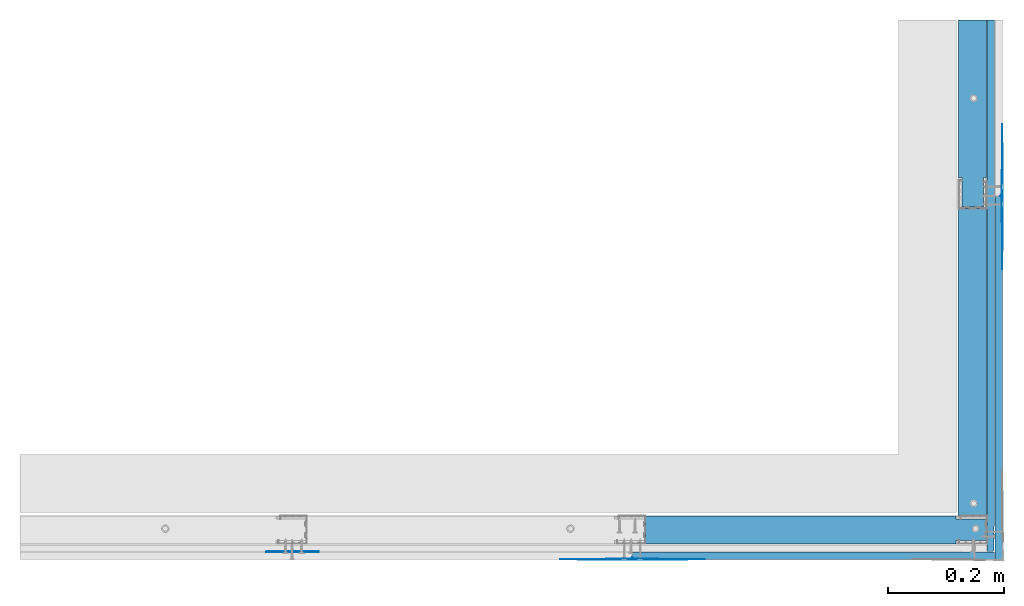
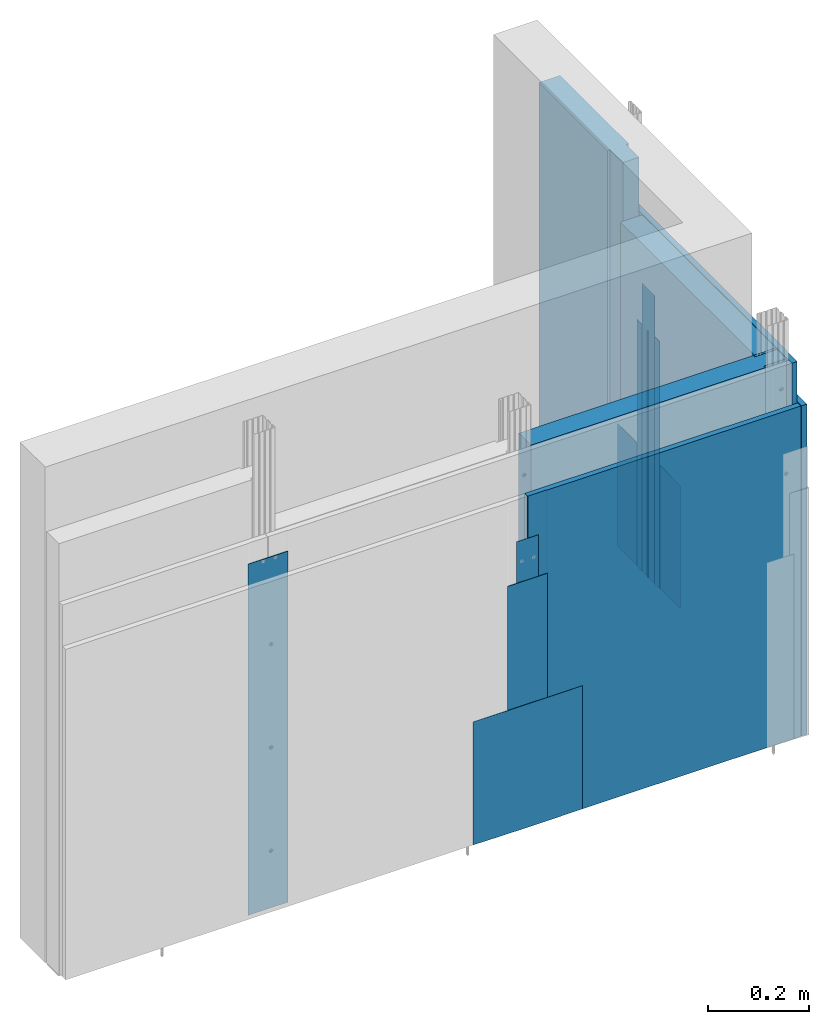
# One storey, part 2 of 43: 13 walls.
"""IFC2X3 building model written with IfcOpenShell, lengths in millimetres."""

import ifcopenshell
import ifcopenshell.guid

model = None  # the IFC model being written
_history = None  # IfcOwnerHistory: only IFC2X3 demands one
_inside = {}  # id of a spatial element -> (the spatial element, [elements in it])
_under = {}  # id of a project, library or spatial element -> (it, [spatial elements below it])
_declared = {}  # id of a project -> (the project, [libraries it declares])
_typed = {}  # id of a type object -> (the type object, [elements of that type])
_made_of = {}  # id of a material, layer set ... -> (it, [elements and type objects made of it])


def new_model(schema):
    """Start an empty IFC model of exactly this schema.

    Asked for "IFC4X3", IfcOpenShell would pick the latest addendum, in which some entities
    have other attributes; the version numbers below select the first issue.
    IFC2X3 requires an IfcOwnerHistory on every rooted entity: one is made here for all.
    """
    global model, _history
    if schema == "IFC4X3":
        model = ifcopenshell.file(schema_version=(4, 3, 0, 0))
    else:
        model = ifcopenshell.file(schema=schema)
    _inside.clear()
    _under.clear()
    _declared.clear()
    _typed.clear()
    _made_of.clear()
    _history = None
    if model.schema == "IFC2X3":
        org = make("IfcOrganization", Name="unknown")
        user = make(
            "IfcPersonAndOrganization",
            ThePerson=make("IfcPerson", FamilyName="unknown"),
            TheOrganization=org,
        )
        app = make(
            "IfcApplication",
            ApplicationDeveloper=org,
            Version="unknown",
            ApplicationFullName="unknown",
            ApplicationIdentifier="unknown",
        )
        _history = make(
            "IfcOwnerHistory",
            OwningUser=user,
            OwningApplication=app,
            ChangeAction="ADDED",
            CreationDate=0,
        )
    return model


def make(cls, **values):
    """One entity of the class cls with the attributes given. An attribute that is None is left unset."""
    return model.create_entity(
        cls, **{name: value for name, value in values.items() if value is not None}
    )


def entity(cls, *values):
    """Any entity or typed value of the class cls, its attributes in the order of the schema. None: left unset."""
    e = model.create_entity(cls)
    for i, value in enumerate(values):
        if value is not None:
            e[i] = value
    return e


def rooted(cls, **values):
    """An entity with a GlobalId (a new one), such as an element, a storey or a relation."""
    return make(cls, GlobalId=ifcopenshell.guid.new(), OwnerHistory=_history, **values)


def si_unit(unit_type, name, prefix=None):
    """IfcSIUnit, for example si_unit("LENGTHUNIT", "METRE", prefix="MILLI")."""
    return make("IfcSIUnit", UnitType=unit_type, Prefix=prefix, Name=name)


def converted_unit(unit_type, name, factor, base, dimensions=None, offset=None):
    """IfcConversionBasedUnit, such as the inch: factor (a typed value) times the base unit."""
    return make(
        "IfcConversionBasedUnit"
        if offset is None
        else "IfcConversionBasedUnitWithOffset",
        ConversionOffset=offset,
        Dimensions=None
        if dimensions is None
        else entity("IfcDimensionalExponents", *dimensions),
        UnitType=unit_type,
        Name=name,
        ConversionFactor=make(
            "IfcMeasureWithUnit", ValueComponent=factor, UnitComponent=base
        ),
    )


def assignment(units):
    """IfcUnitAssignment: the units of a project."""
    return None if units is None else make("IfcUnitAssignment", Units=units)


def point(xyz):
    """IfcCartesianPoint."""
    return None if xyz is None else make("IfcCartesianPoint", Coordinates=xyz)


def direction(xyz):
    """IfcDirection."""
    return None if xyz is None else make("IfcDirection", DirectionRatios=xyz)


def frame(location, z_axis=None, x_axis=None):
    """IfcAxis2Placement3D, a coordinate frame: its origin and axes. An axis left out is left unset."""
    return make(
        "IfcAxis2Placement3D",
        Location=point(location),
        Axis=direction(z_axis),
        RefDirection=direction(x_axis),
    )


def origin():
    """The frame at (0, 0, 0) with its axes left unset."""
    return frame((0.0, 0.0, 0.0))


def origin_with_axes():
    """The frame at (0, 0, 0) with the z axis (0, 0, 1) and the x axis (1, 0, 0) written out."""
    return frame((0.0, 0.0, 0.0), z_axis=(0.0, 0.0, 1.0), x_axis=(1.0, 0.0, 0.0))


def place(relative_to, where):
    """IfcLocalPlacement: puts the frame where relative to a parent placement (None: the world)."""
    return make(
        "IfcLocalPlacement", PlacementRelTo=relative_to, RelativePlacement=where
    )


def context(
    kind, dimensions, precision=None, world=None, true_north=None, identifier=None
):
    """IfcGeometricRepresentationContext, for example the 3D "Model" context."""
    return make(
        "IfcGeometricRepresentationContext",
        ContextIdentifier=identifier,
        ContextType=kind,
        CoordinateSpaceDimension=dimensions,
        Precision=precision,
        WorldCoordinateSystem=world,
        TrueNorth=true_north,
    )


def project(units=None, contexts=None):
    """IfcProject with its units and contexts."""
    return rooted(
        "IfcProject",
        Name="project",
        RepresentationContexts=contexts,
        UnitsInContext=assignment(units),
    )


def spatial(cls, under=None, at=None, **own):
    """A site, building, storey or space (cls), placed at a placement, below another one or the project."""
    s = rooted(cls, ObjectPlacement=at, **own)
    if under is not None:
        _under.setdefault(under.id(), (under, []))[1].append(s)
    return s


def faces_of(points, faces, orient=None, outer=None):
    """IfcFace entities. A face is a list of loops; a loop is a list of indices into points, from 0.

    orient and outer hold one flag for each loop. By default every Orientation is true, the
    first loop of a face is its IfcFaceOuterBound and the others are IfcFaceBound.
    """
    made = []
    for i, loops in enumerate(faces):
        bounds = []
        for j, loop in enumerate(loops):
            is_outer = j == 0 if outer is None else outer[i][j]
            bounds.append(
                make(
                    "IfcFaceOuterBound" if is_outer else "IfcFaceBound",
                    Bound=make("IfcPolyLoop", Polygon=[points[k] for k in loop]),
                    Orientation=True if orient is None else orient[i][j],
                )
            )
        made.append(make("IfcFace", Bounds=bounds))
    return made


def faceted_brep(points, faces, orient=None, outer=None, voids=None):
    """IfcFacetedBrep: a solid bounded by flat faces; with voids (closed shells), ...WithVoids."""
    shared = [point(p) for p in points]
    hull = make("IfcClosedShell", CfsFaces=faces_of(shared, faces, orient, outer))
    if voids is None:
        return make("IfcFacetedBrep", Outer=hull)
    return make(
        "IfcFacetedBrepWithVoids",
        Outer=hull,
        Voids=[
            make(cls, CfsFaces=faces_of(shared, fs, o, b)) for cls, fs, o, b in voids
        ],
    )


def shape(context_of_items, identifier, shape_type, items):
    """IfcShapeRepresentation: the items that make up one representation, for example the "Body"."""
    return make(
        "IfcShapeRepresentation",
        ContextOfItems=context_of_items,
        RepresentationIdentifier=identifier,
        RepresentationType=shape_type,
        Items=items,
    )


def made_of(thing, what):
    """Note that an element or type object is made of a material, layer set ...; save() writes the relation."""
    if what is not None:
        _made_of.setdefault(what.id(), (what, []))[1].append(thing)
    return thing


def element(
    cls,
    number,
    at=None,
    inside=None,
    cuts=None,
    type_object=None,
    material=None,
    context=None,
    identifier="Body",
    shape_type=None,
    held_by="IfcProductDefinitionShape",
    body=None,
    shapes=None,
    **own,
):
    """One element of the class cls, such as IfcWall. Its Tag is "e" and its number.

    at: its placement. inside: the storey or other place that contains it. cuts: it is an
    opening in that element (IfcRelVoidsElement). A single representation is given by context,
    identifier, shape_type and body (its items); several are given by shapes. held_by: the class
    of the entity that holds the representations. save() writes the other relations.
    """
    e = rooted(cls, Tag="e%d" % number, ObjectPlacement=at, **own)
    if body is not None:
        shapes = [shape(context, identifier, shape_type, body)]
    if shapes is not None:
        e.Representation = make(held_by, Representations=shapes)
    if inside is not None:
        _inside.setdefault(inside.id(), (inside, []))[1].append(e)
    if cuts is not None:
        rooted(
            "IfcRelVoidsElement", RelatingBuildingElement=cuts, RelatedOpeningElement=e
        )
    if type_object is not None:
        _typed.setdefault(type_object.id(), (type_object, []))[1].append(e)
    return made_of(e, material)


def aggregate(whole, parts):
    """IfcRelAggregates: a whole, such as a stair, and the parts it consists of."""
    return rooted("IfcRelAggregates", RelatingObject=whole, RelatedObjects=parts)


def save(model, path):
    """Write the relations noted so far, then the file.

    IfcRelAggregates (storeys below a building ...), IfcRelContainedInSpatialStructure (elements
    in a storey), IfcRelDefinesByType, IfcRelAssociatesMaterial and IfcRelDeclares: one each for
    every whole, place, type object, material and project.
    """
    for whole, parts in _under.values():
        aggregate(whole, parts)
    for where, things in _inside.values():
        rooted(
            "IfcRelContainedInSpatialStructure",
            RelatedElements=things,
            RelatingStructure=where,
        )
    for kind, things in _typed.values():
        rooted("IfcRelDefinesByType", RelatedObjects=things, RelatingType=kind)
    for what, things in _made_of.values():
        rooted("IfcRelAssociatesMaterial", RelatedObjects=things, RelatingMaterial=what)
    for by, libraries in _declared.values():
        rooted("IfcRelDeclares", RelatingContext=by, RelatedDefinitions=libraries)
    model.write(path)


model = new_model("IFC2X3")

# Units and contexts
model_context = context("Model", 3, precision=1e-05, world=origin(), true_north=direction((0.0, 1.0, 0.0)))
ifc_project = project(units=[si_unit("LENGTHUNIT", "METRE", prefix="MILLI"), si_unit("AREAUNIT", "SQUARE_METRE"), si_unit("VOLUMEUNIT", "CUBIC_METRE"), converted_unit("PLANEANGLEUNIT", "DEGREE", entity("IfcPlaneAngleMeasure", 0.01745), si_unit("PLANEANGLEUNIT", "RADIAN"), dimensions=[0, 0, 0, 0, 0, 0, 0]), si_unit("SOLIDANGLEUNIT", "STERADIAN"), si_unit("MASSUNIT", "GRAM"), si_unit("TIMEUNIT", "SECOND"), si_unit("THERMODYNAMICTEMPERATUREUNIT", "DEGREE_CELSIUS"), si_unit("LUMINOUSINTENSITYUNIT", "LUMEN")], contexts=[model_context])

# Site, building, storey
site_placement = place(None, origin_with_axes())
site = spatial("IfcSite", under=ifc_project, at=site_placement, Name="Default Site", CompositionType="ELEMENT")
building_placement = place(site_placement, origin_with_axes())
building = spatial("IfcBuilding", under=site, at=building_placement, Name="Default Building", CompositionType="ELEMENT")
storey_placement = place(building_placement, origin_with_axes())
storey = spatial("IfcBuildingStorey", under=building, at=storey_placement, Name="Default Building Storey", CompositionType="ELEMENT", Elevation=0.0)

# Walls
wall_1_placement = place(storey_placement, frame((2445.759195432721, 5331.736799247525, 7.5484213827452), z_axis=(0.0, 0.0, 1.0), x_axis=(-1.0, 4.718447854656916e-16, 0.0)))
element("IfcWall", 1, at=wall_1_placement, inside=storey, Name="Dedykowana masa szpachlowa Rigips - konstrukcyjna", context=model_context, shape_type="Brep", body=[
    faceted_brep([(-737.4838396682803, 3387.6695906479, 600.7999999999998), (-737.4592163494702, 3387.356721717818, 600.7999999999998), (-737.434593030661, 3387.6695906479, 600.7999999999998), (-737.3613293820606, 3387.974755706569, 600.7999999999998), (-737.2412293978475, 3388.264702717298, 600.7999999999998), (-737.07725033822, 3388.532292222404, 600.7999999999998), (-736.8734299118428, 3388.770935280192, 600.7999999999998), (-736.6347868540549, 3388.974755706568, 600.7999999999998), (-736.3671973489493, 3389.138734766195, 600.7999999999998), (-736.0772503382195, 3389.258834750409, 600.7999999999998), (-735.7720852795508, 3389.332098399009, 600.7999999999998), (-735.45921634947, 3389.356721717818, 600.7999999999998), (-692.4592163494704, 3389.356721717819, 600.7999999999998), (-691.4592163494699, 3390.556721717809, 600.7999999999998), (-782.4592163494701, 3390.556721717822, 600.7999999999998), (-782.4592163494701, 3389.356721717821, 600.7999999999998), (-739.4592163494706, 3389.356721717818, 600.7999999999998), (-739.1463474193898, 3389.332098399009, 600.7999999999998), (-738.8411823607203, 3389.258834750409, 600.7999999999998), (-738.5512353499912, 3389.138734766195, 600.7999999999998), (-738.2836458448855, 3388.974755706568, 600.7999999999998), (-738.0450027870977, 3388.770935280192, 600.7999999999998), (-737.8411823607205, 3388.532292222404, 600.7999999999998), (-737.6772033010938, 3388.264702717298, 600.7999999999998), (-737.55710331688, 3387.974755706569, 600.7999999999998), (-691.4592163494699, 3390.556721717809, 2.449996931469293), (-692.4592163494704, 3389.356721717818, 2.449996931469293), (-735.45921634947, 3389.356721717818, 2.449996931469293), (-735.7720852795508, 3389.332098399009, 2.449996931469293), (-736.0772503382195, 3389.258834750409, 2.449996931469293), (-736.3671973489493, 3389.138734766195, 2.449996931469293), (-736.6347868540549, 3388.974755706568, 2.449996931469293), (-736.8734299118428, 3388.770935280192, 2.449996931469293), (-737.07725033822, 3388.532292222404, 2.449996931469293), (-737.2412293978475, 3388.264702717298, 2.449996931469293), (-737.3613293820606, 3387.974755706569, 2.449996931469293), (-737.434593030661, 3387.6695906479, 2.449996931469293), (-737.4592163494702, 3387.356721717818, 2.449996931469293), (-737.4838396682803, 3387.6695906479, 2.449996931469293), (-737.55710331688, 3387.974755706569, 2.449996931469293), (-737.6772033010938, 3388.264702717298, 2.449996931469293), (-737.8411823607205, 3388.532292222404, 2.449996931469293), (-738.0450027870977, 3388.770935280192, 2.449996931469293), (-738.2836458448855, 3388.974755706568, 2.449996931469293), (-738.5512353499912, 3389.138734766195, 2.449996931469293), (-738.8411823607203, 3389.258834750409, 2.449996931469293), (-739.1463474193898, 3389.332098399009, 2.449996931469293), (-739.4592163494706, 3389.356721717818, 2.449996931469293), (-782.4592163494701, 3389.356721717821, 2.449996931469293), (-782.4592163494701, 3390.556721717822, 2.449996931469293)], [[[0, 1, 2, 3, 4, 5, 6, 7, 8, 9, 10, 11, 12, 13, 14, 15, 16, 17, 18, 19, 20, 21, 22, 23, 24]], [[25, 26, 27, 28, 29, 30, 31, 32, 33, 34, 35, 36, 37, 38, 39, 40, 41, 42, 43, 44, 45, 46, 47, 48, 49]], [[26, 12, 11, 27]], [[10, 9, 29, 28]], [[28, 27, 11, 10]], [[8, 30, 29, 9]], [[7, 6, 32, 31]], [[31, 30, 8, 7]], [[5, 4, 34, 33]], [[33, 32, 6, 5]], [[3, 35, 34, 4]], [[2, 1, 37, 36]], [[36, 35, 3, 2]], [[0, 24, 39, 38]], [[38, 37, 1, 0]], [[23, 40, 39, 24]], [[22, 21, 42, 41]], [[41, 40, 23, 22]], [[20, 19, 44, 43]], [[43, 42, 21, 20]], [[18, 45, 44, 19]], [[17, 16, 47, 46]], [[46, 45, 18, 17]], [[47, 16, 15, 48]], [[48, 15, 14, 49]], [[49, 14, 13, 25]], [[25, 13, 12, 26]]]),
])
wall_2_placement = place(storey_placement, frame((2445.759195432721, 5331.736799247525, 7.548421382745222), z_axis=(0.0, 0.0, 1.0), x_axis=(-1.0, 4.718447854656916e-16, 0.0)))
element("IfcWall", 2, at=wall_2_placement, inside=storey, Name="Dedykowana masa szpachlowa Rigips - wykończeniowa", context=model_context, shape_type="Brep", body=[
    faceted_brep([(-612.459216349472, 3390.556721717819, 2.449996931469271), (-862.459216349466, 3390.556721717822, 2.449996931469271), (-812.4612643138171, 3391.196716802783, 2.449996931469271), (-762.4602403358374, 3391.516720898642, 2.449996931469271), (-712.458192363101, 3391.516720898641, 2.449996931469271), (-662.4571683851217, 3391.19671680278, 2.449996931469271), (-762.4602403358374, 3391.516720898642, 300.8000000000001), (-812.4612643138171, 3391.196716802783, 300.8000000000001), (-862.459216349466, 3390.556721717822, 300.8000000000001), (-612.459216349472, 3390.556721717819, 300.8000000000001), (-662.4571683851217, 3391.19671680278, 300.8000000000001), (-712.458192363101, 3391.516720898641, 300.8000000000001)], [[[0, 1, 2, 3, 4, 5]], [[6, 7, 8, 9, 10, 11]], [[9, 0, 5, 10]], [[10, 5, 4, 11]], [[11, 4, 3, 6]], [[6, 3, 2, 7]], [[1, 8, 7, 2]], [[0, 9, 8, 1]]]),
])
wall_3_placement = place(storey_placement, frame((2445.759195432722, 5331.736799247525, 7.548421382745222), z_axis=(0.0, 0.0, 1.0), x_axis=(-1.0, 4.718447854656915e-16, 0.0)))
element("IfcWall", 3, at=wall_3_placement, inside=storey, Name="Taśma spoinowa RIGIPS", context=model_context, shape_type="Brep", body=[
    faceted_brep([(-712.4592163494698, 3389.356721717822, 700.7999999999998), (-712.4592163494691, 3389.856721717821, 700.7999999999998), (-762.4592163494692, 3389.856721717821, 700.7999999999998), (-762.45921634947, 3389.35672171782, 700.7999999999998), (-712.4592163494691, 3389.856721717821, 2.449996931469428), (-712.4592163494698, 3389.35672171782, 2.449996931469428), (-762.45921634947, 3389.35672171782, 2.449996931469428), (-762.4592163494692, 3389.856721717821, 2.449996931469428)], [[[0, 1, 2, 3]], [[4, 5, 6, 7]], [[5, 0, 3, 6]], [[6, 3, 2, 7]], [[7, 2, 1, 4]], [[4, 1, 0, 5]]]),
])
wall_4_placement = place(storey_placement, frame((1858.835917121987, 5344.236799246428, 259.1999999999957), z_axis=(0.0, 0.0, 1.0), x_axis=(-1.0, 4.718447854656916e-16, 0.0)))
element("IfcWall", 4, at=wall_4_placement, inside=storey, Name="Dedykowana masa szpachlowa Rigips - konstrukcyjna", context=model_context, shape_type="Brep", body=[
    faceted_brep([(-737.4838396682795, 3387.669590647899, 600.7999999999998), (-737.4592163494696, 3387.356721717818, 600.7999999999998), (-737.4345930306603, 3387.669590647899, 600.7999999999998), (-737.3613293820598, 3387.974755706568, 600.7999999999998), (-737.2412293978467, 3388.264702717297, 600.7999999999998), (-737.0772503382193, 3388.532292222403, 600.7999999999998), (-736.8734299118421, 3388.770935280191, 600.7999999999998), (-736.6347868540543, 3388.974755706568, 600.7999999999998), (-736.3671973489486, 3389.138734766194, 600.7999999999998), (-736.0772503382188, 3389.258834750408, 600.7999999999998), (-735.7720852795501, 3389.332098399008, 600.7999999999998), (-735.4592163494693, 3389.356721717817, 600.7999999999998), (-692.4592163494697, 3389.356721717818, 600.7999999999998), (-691.4592163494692, 3390.556721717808, 600.7999999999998), (-782.4592163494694, 3390.556721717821, 600.7999999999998), (-782.4592163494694, 3389.356721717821, 600.7999999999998), (-739.4592163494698, 3389.356721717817, 600.7999999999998), (-739.146347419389, 3389.332098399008, 600.7999999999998), (-738.8411823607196, 3389.258834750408, 600.7999999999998), (-738.5512353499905, 3389.138734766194, 600.7999999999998), (-738.2836458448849, 3388.974755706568, 600.7999999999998), (-738.045002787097, 3388.770935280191, 600.7999999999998), (-737.8411823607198, 3388.532292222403, 600.7999999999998), (-737.6772033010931, 3388.264702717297, 600.7999999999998), (-737.5571033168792, 3387.974755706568, 600.7999999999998), (-691.4592163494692, 3390.556721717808, -249.2015816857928), (-692.4592163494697, 3389.356721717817, -249.2015816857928), (-735.4592163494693, 3389.356721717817, -249.2015816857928), (-735.7720852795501, 3389.332098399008, -249.2015816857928), (-736.0772503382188, 3389.258834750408, -249.2015816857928), (-736.3671973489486, 3389.138734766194, -249.2015816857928), (-736.6347868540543, 3388.974755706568, -249.2015816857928), (-736.8734299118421, 3388.77093528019, -249.2015816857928), (-737.0772503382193, 3388.532292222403, -249.2015816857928), (-737.2412293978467, 3388.264702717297, -249.2015816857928), (-737.3613293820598, 3387.974755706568, -249.2015816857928), (-737.4345930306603, 3387.669590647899, -249.2015816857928), (-737.4592163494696, 3387.356721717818, -249.2015816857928), (-737.4838396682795, 3387.669590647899, -249.2015816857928), (-737.5571033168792, 3387.974755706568, -249.2015816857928), (-737.6772033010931, 3388.264702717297, -249.2015816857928), (-737.8411823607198, 3388.532292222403, -249.2015816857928), (-738.045002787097, 3388.77093528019, -249.2015816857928), (-738.2836458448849, 3388.974755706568, -249.2015816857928), (-738.5512353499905, 3389.138734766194, -249.2015816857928), (-738.8411823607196, 3389.258834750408, -249.2015816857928), (-739.146347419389, 3389.332098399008, -249.2015816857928), (-739.4592163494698, 3389.356721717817, -249.2015816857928), (-782.4592163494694, 3389.356721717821, -249.2015816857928), (-782.4592163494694, 3390.556721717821, -249.2015816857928)], [[[0, 1, 2, 3, 4, 5, 6, 7, 8, 9, 10, 11, 12, 13, 14, 15, 16, 17, 18, 19, 20, 21, 22, 23, 24]], [[25, 26, 27, 28, 29, 30, 31, 32, 33, 34, 35, 36, 37, 38, 39, 40, 41, 42, 43, 44, 45, 46, 47, 48, 49]], [[26, 12, 11, 27]], [[10, 9, 29, 28]], [[28, 27, 11, 10]], [[8, 30, 29, 9]], [[7, 6, 32, 31]], [[31, 30, 8, 7]], [[5, 4, 34, 33]], [[33, 32, 6, 5]], [[3, 35, 34, 4]], [[2, 1, 37, 36]], [[36, 35, 3, 2]], [[0, 24, 39, 38]], [[38, 37, 1, 0]], [[23, 40, 39, 24]], [[22, 21, 42, 41]], [[41, 40, 23, 22]], [[20, 19, 44, 43]], [[43, 42, 21, 20]], [[18, 45, 44, 19]], [[17, 16, 47, 46]], [[46, 45, 18, 17]], [[47, 16, 15, 48]], [[48, 15, 14, 49]], [[49, 14, 13, 25]], [[25, 13, 12, 26]]]),
])
wall_5_placement = place(storey_placement, frame((3796.29513347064, 3154.680077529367, 1159.999999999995), z_axis=(0.0, 0.0, 1.0), x_axis=(6.387668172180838e-13, -1.0, 0.0)))
element("IfcWall", 5, at=wall_5_placement, inside=storey, Name="Płyta gipsowo-kartonowa RIGIPS PRO (4PRO™)", context=model_context, shape_type="Brep", body=[
    faceted_brep([(281.6635732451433, -2.880426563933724e-10, -249.9999999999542), (281.6635732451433, 12.49999999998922, -249.9999999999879), (281.6635732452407, 12.49999999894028, -1150.001581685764), (281.6635732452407, -1.336979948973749e-09, -1150.001581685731), (1155.000000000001, 12.49999999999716, -249.9999999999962), (1200.0, 2.165734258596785e-12, -249.9999999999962), (1200.00000000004, 10.4999999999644, -249.9999999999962), (1199.965925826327, 10.75881904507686, -249.9999999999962), (1199.866025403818, 10.99999999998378, -249.9999999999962), (1199.707106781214, 11.20710678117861, -249.9999999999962), (1199.50000000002, 11.3660254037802, -249.9999999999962), (1199.258819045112, 11.46592582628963, -249.9999999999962), (1199.0, 11.50000000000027, -249.9999999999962), (1159.0, 11.50000000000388, -249.9999999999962), (1199.965925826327, 10.75881904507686, -1150.001581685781), (1199.866025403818, 10.99999999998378, -1150.001581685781), (1199.707106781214, 11.20710678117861, -1150.001581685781), (1199.50000000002, 11.3660254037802, -1150.001581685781), (1199.258819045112, 11.46592582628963, -1150.001581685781), (1199.0, 11.50000000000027, -1150.001581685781), (1159.0, 11.50000000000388, -1150.001581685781), (1155.000000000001, 12.49999999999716, -1150.001581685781), (1200.0, 2.165734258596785e-12, -1150.001581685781), (1200.00000000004, 10.4999999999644, -1150.001581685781)], [[[0, 1, 2, 3]], [[4, 1, 0, 5, 6, 7, 8, 9, 10, 11, 12, 13]], [[8, 7, 14, 15]], [[9, 8, 15, 16]], [[10, 9, 16, 17]], [[11, 10, 17, 18]], [[12, 11, 18, 19]], [[13, 12, 19, 20]], [[4, 13, 20, 21]], [[21, 2, 1, 4]], [[0, 3, 22, 5]], [[6, 5, 22, 23]], [[7, 6, 23, 14]], [[14, 23, 22, 3, 2, 21, 20, 19, 18, 17, 16, 15]]]),
])
wall_6_placement = place(storey_placement, frame((3632.692039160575, 5447.424146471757, 8.248997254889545), z_axis=(-7.620176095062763e-14, -6.858158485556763e-13, 1.0), x_axis=(-1.0, -9.714451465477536e-17, -7.620176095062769e-14)))
element("IfcWall", 6, at=wall_6_placement, inside=storey, Name="Wełna mineralna szklana lub skalna", context=model_context, shape_type="Brep", body=[
    faceted_brep([(-161.2775660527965, 3473.633223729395, -2.649999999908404), (-161.2775660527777, 3473.633223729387, 901.7510027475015), (-109.9235473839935, 3473.633223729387, 901.7510027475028), (-109.9235473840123, 3473.633223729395, -2.649999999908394), (-109.9235473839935, 3479.633223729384, 901.7510027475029), (-109.9235473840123, 3479.633223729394, -2.649999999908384), (-161.2775660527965, 3436.833223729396, -2.64999999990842), (-161.2775660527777, 3436.833223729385, 901.751002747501), (-109.9235473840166, 3436.833223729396, -2.64999999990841), (-109.9235473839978, 3436.833223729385, 901.7510027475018), (-109.9235473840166, 3431.283223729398, -2.649999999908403), (426.9366232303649, 3431.283223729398, -2.649999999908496), (426.9366232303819, 3431.283223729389, 901.7510027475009), (-109.9235473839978, 3431.283223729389, 901.7510027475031), (426.9366232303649, 3479.633223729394, -2.649999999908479), (426.9366232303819, 3479.633223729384, 901.7510027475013)], [[[0, 1, 2, 3]], [[3, 2, 4, 5]], [[1, 0, 6, 7]], [[7, 6, 8, 9]], [[10, 11, 12, 13]], [[9, 8, 10, 13]], [[3, 5, 14, 11, 10, 8, 6, 0]], [[4, 15, 14, 5]], [[15, 4, 2, 1, 7, 9, 13, 12]], [[14, 15, 12, 11]]]),
])
wall_7_placement = place(storey_placement, frame((7226.673841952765, 3377.868488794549, 8.248997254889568), z_axis=(-6.858158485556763e-13, 7.62017609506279e-14, 1.0), x_axis=(2.857123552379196e-16, 1.0, -7.620176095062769e-14)))
element("IfcWall", 7, at=wall_7_placement, inside=storey, Name="Wełna mineralna szklana lub skalna", context=model_context, shape_type="Brep", body=[
    faceted_brep([(-830.6390912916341, 3431.378708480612, 901.7510027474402), (-830.6390912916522, 3431.378708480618, -2.199999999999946), (-830.6390912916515, 3481.283223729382, -2.199999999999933), (-830.6390912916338, 3481.283223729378, 901.751002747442), (-1361.277566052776, 3431.378708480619, 901.7510027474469), (-1361.277566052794, 3431.378708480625, -2.199999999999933), (-1361.277566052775, 3481.283223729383, 901.7510027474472), (-1309.92354738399, 3481.283223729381, 901.7510027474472), (-1361.277566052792, 3481.28322372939, -2.199999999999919), (-1309.923547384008, 3481.28322372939, -2.199999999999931)], [[[0, 1, 2, 3]], [[1, 0, 4, 5]], [[6, 4, 0, 3, 7]], [[6, 8, 5, 4]], [[8, 6, 7, 9]], [[3, 2, 9, 7]], [[8, 9, 2, 1, 5]]]),
])
wall_8_placement = place(storey_placement, frame((431.7384117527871, 3305.216015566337, 7.548421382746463), z_axis=(0.0, 0.0, 1.0), x_axis=(-6.390998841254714e-13, 1.0, 0.0)))
element("IfcWall", 8, at=wall_8_placement, inside=storey, Name="Dedykowana masa szpachlowa Rigips - wykończeniowa", context=model_context, shape_type="Brep", body=[
    faceted_brep([(-612.459216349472, -3390.556721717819, 2.449996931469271), (-862.459216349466, -3390.556721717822, 2.449996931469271), (-812.4612643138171, -3391.196716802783, 2.449996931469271), (-762.4602403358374, -3391.516720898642, 2.449996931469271), (-712.458192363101, -3391.516720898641, 2.449996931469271), (-662.4571683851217, -3391.19671680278, 2.449996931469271), (-762.4602403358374, -3391.516720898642, 300.8000000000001), (-812.4612643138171, -3391.196716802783, 300.8000000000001), (-862.459216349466, -3390.556721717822, 300.8000000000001), (-612.459216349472, -3390.556721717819, 300.8000000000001), (-662.4571683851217, -3391.19671680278, 300.8000000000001), (-712.458192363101, -3391.516720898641, 300.8000000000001)], [[[0, 1, 2, 3, 4, 5]], [[6, 7, 8, 9, 10, 11]], [[9, 0, 5, 10]], [[10, 5, 4, 11]], [[11, 4, 3, 6]], [[6, 3, 2, 7]], [[1, 8, 7, 2]], [[0, 9, 8, 1]]]),
])
wall_9_placement = place(storey_placement, frame((431.7384117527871, 3305.216015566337, 7.548421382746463), z_axis=(0.0, 0.0, 1.0), x_axis=(-6.390998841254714e-13, 1.0, 0.0)))
element("IfcWall", 9, at=wall_9_placement, inside=storey, Name="Taśma spoinowa RIGIPS", context=model_context, shape_type="Brep", body=[
    faceted_brep([(-712.4592163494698, -3389.356721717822, 700.7999999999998), (-712.4592163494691, -3389.856721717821, 700.7999999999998), (-762.4592163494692, -3389.856721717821, 700.7999999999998), (-762.45921634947, -3389.35672171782, 700.7999999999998), (-712.4592163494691, -3389.856721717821, 2.449996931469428), (-712.4592163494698, -3389.35672171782, 2.449996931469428), (-762.45921634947, -3389.35672171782, 2.449996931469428), (-762.4592163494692, -3389.856721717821, 2.449996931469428)], [[[0, 1, 2, 3]], [[4, 5, 6, 7]], [[5, 0, 3, 6]], [[6, 3, 2, 7]], [[7, 2, 1, 4]], [[4, 1, 0, 5]]]),
])
wall_10_placement = place(storey_placement, frame((431.7384117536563, 1831.297582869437, 7.548421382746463), z_axis=(0.0, 0.0, 1.0), x_axis=(-5.689893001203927e-16, -1.0, 0.0)))
element("IfcWall", 10, at=wall_10_placement, inside=storey, Name="Dedykowana masa szpachlowa Rigips - konstrukcyjna", context=model_context, shape_type="Brep", body=[
    faceted_brep([(-737.4838396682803, 3387.6695906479, 600.7999999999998), (-737.4592163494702, 3387.356721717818, 600.7999999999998), (-737.434593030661, 3387.6695906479, 600.7999999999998), (-737.3613293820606, 3387.974755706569, 600.7999999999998), (-737.2412293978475, 3388.264702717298, 600.7999999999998), (-737.07725033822, 3388.532292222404, 600.7999999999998), (-736.8734299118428, 3388.770935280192, 600.7999999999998), (-736.6347868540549, 3388.974755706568, 600.7999999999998), (-736.3671973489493, 3389.138734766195, 600.7999999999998), (-736.0772503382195, 3389.258834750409, 600.7999999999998), (-735.7720852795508, 3389.332098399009, 600.7999999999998), (-735.45921634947, 3389.356721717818, 600.7999999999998), (-692.4592163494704, 3389.356721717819, 600.7999999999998), (-691.4592163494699, 3390.556721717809, 600.7999999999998), (-782.4592163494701, 3390.556721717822, 600.7999999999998), (-782.4592163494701, 3389.356721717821, 600.7999999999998), (-739.4592163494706, 3389.356721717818, 600.7999999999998), (-739.1463474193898, 3389.332098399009, 600.7999999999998), (-738.8411823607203, 3389.258834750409, 600.7999999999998), (-738.5512353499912, 3389.138734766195, 600.7999999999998), (-738.2836458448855, 3388.974755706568, 600.7999999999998), (-738.0450027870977, 3388.770935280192, 600.7999999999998), (-737.8411823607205, 3388.532292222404, 600.7999999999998), (-737.6772033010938, 3388.264702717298, 600.7999999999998), (-737.55710331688, 3387.974755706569, 600.7999999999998), (-691.4592163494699, 3390.556721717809, 2.449996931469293), (-692.4592163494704, 3389.356721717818, 2.449996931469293), (-735.45921634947, 3389.356721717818, 2.449996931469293), (-735.7720852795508, 3389.332098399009, 2.449996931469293), (-736.0772503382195, 3389.258834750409, 2.449996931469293), (-736.3671973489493, 3389.138734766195, 2.449996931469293), (-736.6347868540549, 3388.974755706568, 2.449996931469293), (-736.8734299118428, 3388.770935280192, 2.449996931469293), (-737.07725033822, 3388.532292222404, 2.449996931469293), (-737.2412293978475, 3388.264702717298, 2.449996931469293), (-737.3613293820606, 3387.974755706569, 2.449996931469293), (-737.434593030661, 3387.6695906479, 2.449996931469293), (-737.4592163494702, 3387.356721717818, 2.449996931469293), (-737.4838396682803, 3387.6695906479, 2.449996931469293), (-737.55710331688, 3387.974755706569, 2.449996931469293), (-737.6772033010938, 3388.264702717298, 2.449996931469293), (-737.8411823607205, 3388.532292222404, 2.449996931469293), (-738.0450027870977, 3388.770935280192, 2.449996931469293), (-738.2836458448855, 3388.974755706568, 2.449996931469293), (-738.5512353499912, 3389.138734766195, 2.449996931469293), (-738.8411823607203, 3389.258834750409, 2.449996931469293), (-739.1463474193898, 3389.332098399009, 2.449996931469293), (-739.4592163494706, 3389.356721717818, 2.449996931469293), (-782.4592163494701, 3389.356721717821, 2.449996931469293), (-782.4592163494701, 3390.556721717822, 2.449996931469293)], [[[0, 1, 2, 3, 4, 5, 6, 7, 8, 9, 10, 11, 12, 13, 14, 15, 16, 17, 18, 19, 20, 21, 22, 23, 24]], [[25, 26, 27, 28, 29, 30, 31, 32, 33, 34, 35, 36, 37, 38, 39, 40, 41, 42, 43, 44, 45, 46, 47, 48, 49]], [[26, 12, 11, 27]], [[10, 9, 29, 28]], [[28, 27, 11, 10]], [[8, 30, 29, 9]], [[7, 6, 32, 31]], [[31, 30, 8, 7]], [[5, 4, 34, 33]], [[33, 32, 6, 5]], [[3, 35, 34, 4]], [[2, 1, 37, 36]], [[36, 35, 3, 2]], [[0, 24, 39, 38]], [[38, 37, 1, 0]], [[23, 40, 39, 24]], [[22, 21, 42, 41]], [[41, 40, 23, 22]], [[20, 19, 44, 43]], [[43, 42, 21, 20]], [[18, 45, 44, 19]], [[17, 16, 47, 46]], [[46, 45, 18, 17]], [[47, 16, 15, 48]], [[48, 15, 14, 49]], [[49, 14, 13, 25]], [[25, 13, 12, 26]]]),
])
wall_11_placement = place(storey_placement, frame((7226.384654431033, 2710.832491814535, 8.248997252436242), z_axis=(-7.620176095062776e-14, -6.858158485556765e-13, 1.0), x_axis=(4.440892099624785e-16, 1.0, 6.858158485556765e-13)))
element("IfcWall", 11, at=wall_11_placement, inside=storey, Name="Wełna mineralna szklana lub skalna", context=model_context, shape_type="Brep", body=[
    faceted_brep([(-161.2530943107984, 3473.633223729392, -2.649999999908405), (-161.2530943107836, 3473.633223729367, 1041.751002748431), (-109.9235473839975, 3473.633223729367, 1041.751002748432), (-109.9235473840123, 3473.633223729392, -2.649999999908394), (-109.9235473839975, 3479.633223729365, 1041.751002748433), (-109.9235473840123, 3479.63322372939, -2.649999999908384), (-161.2530943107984, 3436.833223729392, -2.64999999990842), (-161.2530943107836, 3436.833223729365, 1041.751002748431), (-109.9235473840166, 3436.833223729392, -2.64999999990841), (-109.9235473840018, 3436.833223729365, 1041.751002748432), (-109.9235473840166, 3431.283223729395, -2.649999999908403), (162.1840124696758, 3431.283223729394, -2.649999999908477), (162.1840124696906, 3431.283223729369, 1041.751002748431), (-109.9235473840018, 3431.28322372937, 1041.751002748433), (162.1840124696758, 3479.63322372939, -2.649999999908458), (162.1840124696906, 3479.633223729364, 1041.751002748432)], [[[0, 1, 2, 3]], [[3, 2, 4, 5]], [[1, 0, 6, 7]], [[7, 6, 8, 9]], [[10, 11, 12, 13]], [[9, 8, 10, 13]], [[3, 5, 14, 11, 10, 8, 6, 0]], [[4, 15, 14, 5]], [[15, 4, 2, 1, 7, 9, 13, 12]], [[14, 15, 12, 11]]]),
])
wall_12_placement = place(storey_placement, frame((3183.218411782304, 1953.680077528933, 1059.999999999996), z_axis=(0.0, 0.0, 1.0), x_axis=(1.0, 6.389333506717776e-13, 0.0)))
element("IfcWall", 12, at=wall_12_placement, inside=storey, Name="Płyta gipsowo-kartonowa RIGIPS PRO (4PRO™)", context=model_context, shape_type="Brep", body=[
    faceted_brep([(625.5767216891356, -12.49999999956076, -249.9999999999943), (625.5767216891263, 4.114895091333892e-10, -249.9999999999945), (625.5767216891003, 4.08240907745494e-10, -1050.001581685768), (625.5767216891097, -12.49999999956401, -1050.001581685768), (44.99999999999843, -12.50000000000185, -249.9999999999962), (40.99999999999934, -11.50000000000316, -249.9999999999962), (0.9999999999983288, -11.50000000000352, -249.9999999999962), (0.7411809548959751, -11.46592582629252, -249.9999999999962), (0.4999999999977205, -11.3660254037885, -249.9999999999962), (0.29289321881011, -11.20710678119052, -249.9999999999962), (0.1339745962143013, -11.00000000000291, -249.9999999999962), (0.03407417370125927, -10.7588190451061, -249.9999999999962), (-2.887645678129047e-12, -10.50000000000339, -249.9999999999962), (0.0, 0.0, -249.9999999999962), (44.99999999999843, -12.50000000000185, -1050.001581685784), (40.99999999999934, -11.50000000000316, -1050.001581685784), (0.9999999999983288, -11.50000000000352, -1050.001581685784), (0.7411809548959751, -11.46592582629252, -1050.001581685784), (0.4999999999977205, -11.3660254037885, -1050.001581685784), (0.29289321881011, -11.20710678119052, -1050.001581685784), (0.1339745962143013, -11.00000000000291, -1050.001581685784), (0.03407417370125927, -10.7588190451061, -1050.001581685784), (-2.887645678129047e-12, -10.50000000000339, -1050.001581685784), (0.0, 0.0, -1050.001581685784)], [[[0, 1, 2, 3]], [[0, 4, 5, 6, 7, 8, 9, 10, 11, 12, 13, 1]], [[3, 14, 4, 0]], [[5, 4, 14, 15]], [[6, 5, 15, 16]], [[7, 6, 16, 17]], [[8, 7, 17, 18]], [[9, 8, 18, 19]], [[10, 9, 19, 20]], [[11, 10, 20, 21]], [[12, 11, 21, 22]], [[13, 12, 22, 23]], [[2, 1, 13, 23]], [[14, 3, 2, 23, 22, 21, 20, 19, 18, 17, 16, 15]]]),
])
wall_13_placement = place(storey_placement, frame((3809.795133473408, 1367.756799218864, 1059.999999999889), z_axis=(0.0, 0.0, 1.0), x_axis=(-6.387668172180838e-13, 1.0, 0.0)))
element("IfcWall", 13, at=wall_13_placement, inside=storey, Name="Płyta gipsowo-kartonowa RIGIPS PRO (4PRO™)", context=model_context, shape_type="Brep", body=[
    faceted_brep([(573.4232783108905, 2.678291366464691e-10, -249.9999999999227), (573.4232783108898, -12.50000000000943, -249.9999999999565), (573.4232783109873, -12.49999999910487, -1050.001581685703), (573.4232783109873, 1.172384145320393e-09, -1050.001581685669), (1155.000000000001, -12.49999999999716, -249.9999999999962), (1200.0, -1.443822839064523e-12, -249.9999999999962), (1200.000000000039, -10.49999999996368, -249.9999999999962), (1199.965925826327, -10.75881904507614, -249.9999999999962), (1199.866025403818, -10.99999999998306, -249.9999999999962), (1199.707106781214, -11.20710678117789, -249.9999999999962), (1199.50000000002, -11.36602540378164, -249.9999999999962), (1199.258819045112, -11.46592582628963, -249.9999999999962), (1199.0, -11.50000000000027, -249.9999999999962), (1159.0, -11.50000000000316, -249.9999999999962), (1199.965925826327, -10.75881904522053, -1050.001581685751), (1199.866025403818, -11.00000000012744, -1050.001581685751), (1199.707106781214, -11.20710678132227, -1050.001581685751), (1199.50000000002, -11.36602540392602, -1050.001581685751), (1199.258819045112, -11.46592582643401, -1050.001581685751), (1199.0, -11.50000000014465, -1050.001581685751), (1159.0, -11.50000000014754, -1050.001581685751), (1155.000000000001, -12.50000000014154, -1050.001581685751), (1200.0, -1.458261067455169e-10, -1050.001581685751), (1200.000000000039, -10.50000000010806, -1050.001581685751)], [[[0, 1, 2, 3]], [[4, 1, 0, 5, 6, 7, 8, 9, 10, 11, 12, 13]], [[8, 7, 14, 15]], [[9, 8, 15, 16]], [[10, 9, 16, 17]], [[11, 10, 17, 18]], [[12, 11, 18, 19]], [[13, 12, 19, 20]], [[4, 13, 20, 21]], [[21, 2, 1, 4]], [[0, 3, 22, 5]], [[6, 5, 22, 23]], [[7, 6, 23, 14]], [[14, 23, 22, 3, 2, 21, 20, 19, 18, 17, 16, 15]]]),
])

save(model, "model.ifc")
